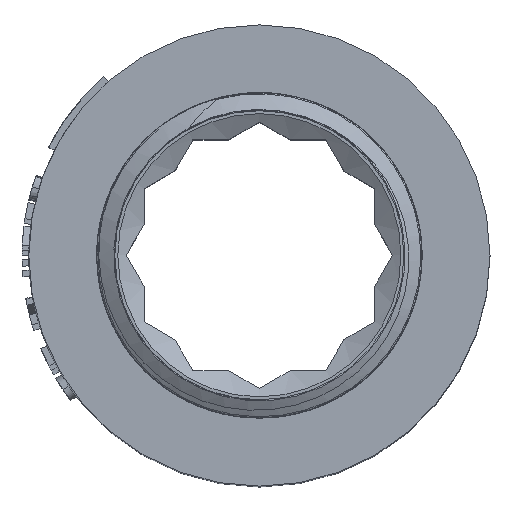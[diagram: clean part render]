
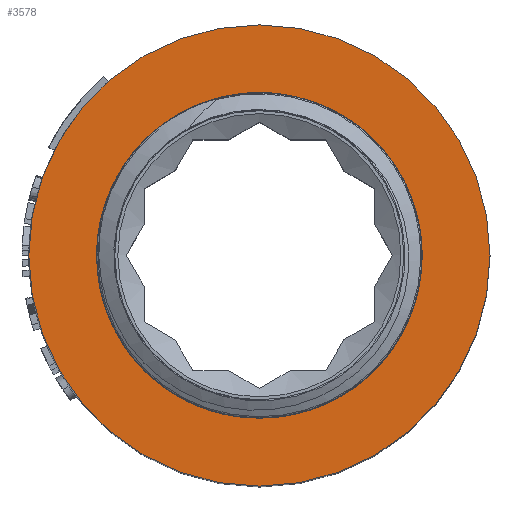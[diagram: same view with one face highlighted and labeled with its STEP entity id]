
A CAD part, top view. The second image highlights one B-rep face of the part: STEP entity #3578.
In plain terms, the highlighted planar face has unit normal (0, 0, 1).
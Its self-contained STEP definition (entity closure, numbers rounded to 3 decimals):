
#84=FACE_BOUND('',#816,.T.);
#437=PLANE('',#3832);
#599=FACE_OUTER_BOUND('',#815,.T.);
#815=EDGE_LOOP('',(#3095,#3096));
#816=EDGE_LOOP('',(#3097,#3098));
#1281=CIRCLE('',#3645,10.72);
#1284=CIRCLE('',#3648,10.72);
#1305=CIRCLE('',#3688,17.1);
#1306=CIRCLE('',#3689,17.1);
#1385=VERTEX_POINT('',#4570);
#1386=VERTEX_POINT('',#4571);
#1433=VERTEX_POINT('',#4818);
#1434=VERTEX_POINT('',#4819);
#1751=EDGE_CURVE('',#1385,#1386,#1281,.T.);
#1755=EDGE_CURVE('',#1386,#1385,#1284,.T.);
#1822=EDGE_CURVE('',#1433,#1434,#1305,.T.);
#1823=EDGE_CURVE('',#1434,#1433,#1306,.T.);
#3095=ORIENTED_EDGE('',*,*,#1822,.T.);
#3096=ORIENTED_EDGE('',*,*,#1823,.T.);
#3097=ORIENTED_EDGE('',*,*,#1751,.F.);
#3098=ORIENTED_EDGE('',*,*,#1755,.F.);
#3578=ADVANCED_FACE('',(#599,#84),#437,.T.);
#3645=AXIS2_PLACEMENT_3D('',#4572,#3886,#3887);
#3648=AXIS2_PLACEMENT_3D('',#4578,#3893,#3894);
#3688=AXIS2_PLACEMENT_3D('',#4820,#4009,#4010);
#3689=AXIS2_PLACEMENT_3D('',#4821,#4011,#4012);
#3832=AXIS2_PLACEMENT_3D('',#7043,#4446,#4447);
#3886=DIRECTION('center_axis',(0.,0.,1.));
#3887=DIRECTION('ref_axis',(1.,0.,0.));
#3893=DIRECTION('center_axis',(0.,0.,1.));
#3894=DIRECTION('ref_axis',(1.,0.,0.));
#4009=DIRECTION('center_axis',(0.,0.,1.));
#4010=DIRECTION('ref_axis',(1.,0.,0.));
#4011=DIRECTION('center_axis',(0.,0.,1.));
#4012=DIRECTION('ref_axis',(1.,0.,0.));
#4446=DIRECTION('center_axis',(0.,0.,1.));
#4447=DIRECTION('ref_axis',(1.,0.,0.));
#4570=CARTESIAN_POINT('',(0.,10.72,-12.));
#4571=CARTESIAN_POINT('',(0.,-10.72,-12.));
#4572=CARTESIAN_POINT('Origin',(0.,0.,-12.));
#4578=CARTESIAN_POINT('Origin',(0.,0.,-12.));
#4818=CARTESIAN_POINT('',(0.,-17.1,-12.));
#4819=CARTESIAN_POINT('',(0.,17.1,-12.));
#4820=CARTESIAN_POINT('Origin',(0.,0.,-12.));
#4821=CARTESIAN_POINT('Origin',(0.,0.,-12.));
#7043=CARTESIAN_POINT('Origin',(0.,-12.065,-12.));
